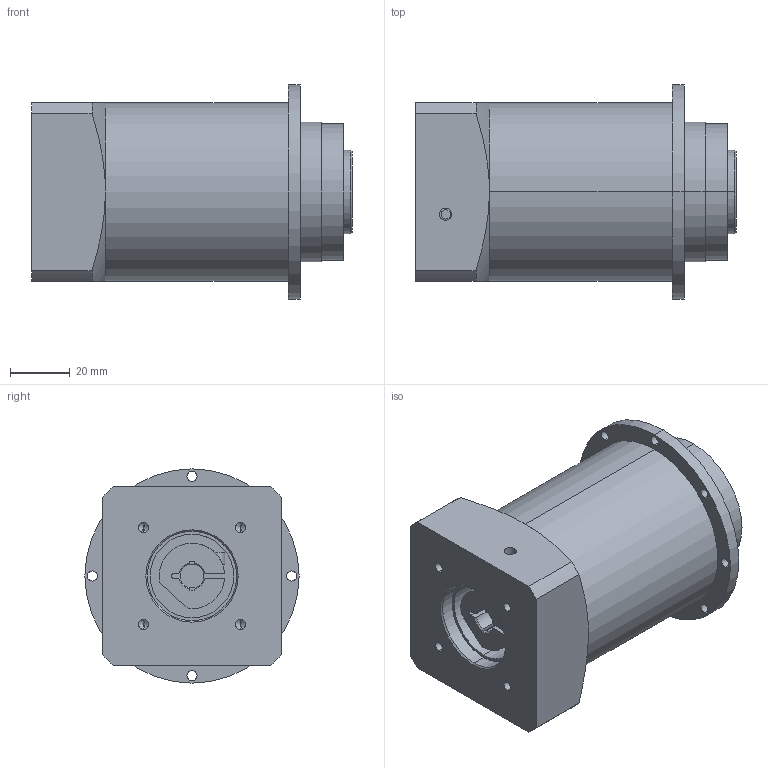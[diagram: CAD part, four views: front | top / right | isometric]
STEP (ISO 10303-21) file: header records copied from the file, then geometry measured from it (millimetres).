
FILE_DESCRIPTION (( 'STEP AP203' ), '1' );
FILE_NAME ('KPH050-2-48.STEP', '2019-08-12T10:34:18', ( 'User' ), ( 'china' ), 'SwSTEP 2.0', 'SolidWorks 2014', '' );
FILE_SCHEMA (( 'CONFIG_CONTROL_DESIGN' ));
Length unit declared in the file: millimetre
Products named in the file (1): KPH050-2-48
Bounding box: 107.8 x 72 x 72 mm (x, y, z)
Volume: 295042.9 mm3; surface area: 34205.5 mm2
Topology: 1 solids, 1 shells, 139 faces, 349 edges, 213 vertices
Faces by surface type: cylinder 68, plane 39, cone 32
Entity records: 4330 total; most frequent: CARTESIAN_POINT 881, DIRECTION 749, ORIENTED_EDGE 662, EDGE_CURVE 331, AXIS2_PLACEMENT_3D 297, VERTEX_POINT 213, EDGE_LOOP 176, CIRCLE 157
